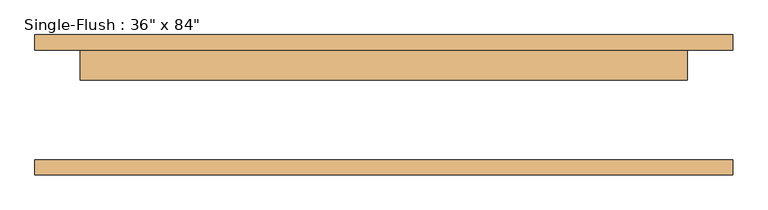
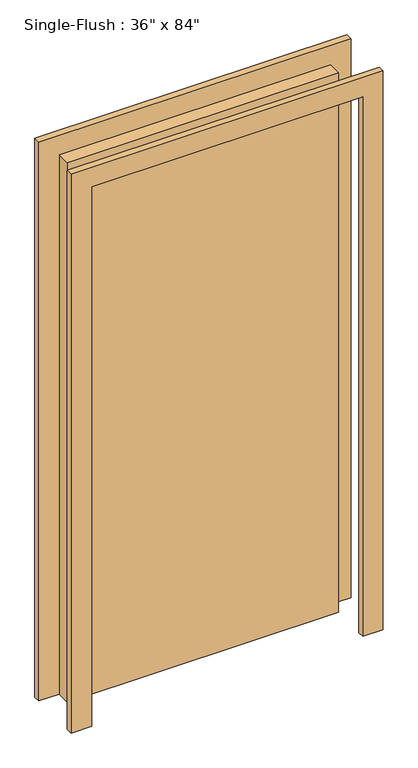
"""IFC4 building model written with IfcOpenShell, lengths in millimetres: door geometry."""

from ifc_helpers import new_model, si_unit, frame, origin, origin_with_axes, place, context, project, spatial, polyline, outline, extrude, source, transform, mapped, element, save


def door_bd3f6991(model_context):
    return source(origin(), model_context, "Body", "SweptSolid", [
        extrude(outline(polyline([(2209.8, -584.2), (0.0, -584.2), (0.0, -508.0), (2133.6, -508.0), (2133.6, 508.0), (0.0, 508.0), (0.0, 584.2), (2209.8, 584.2), (2209.8, -584.2)])), frame((0.0, 92.075, 0.0), z_axis=(0.0, 1.0, 0.0), x_axis=(0.0, 0.0, 1.0)), (0.0, 0.0, 1.0), 25.4),
        extrude(outline(polyline([(2209.8, 584.2), (2209.8, -584.2), (0.0, -584.2), (0.0, -508.0), (2133.6, -508.0), (2133.6, 508.0), (0.0, 508.0), (0.0, 584.2), (2209.8, 584.2)])), frame((0.0, -117.475, 0.0), z_axis=(0.0, 1.0, 0.0), x_axis=(0.0, 0.0, 1.0)), (0.0, 0.0, 1.0), 25.4),
        extrude(outline(polyline([(508.0, 41.275), (-508.0, 41.275), (-508.0, 92.075), (508.0, 92.075), (508.0, 41.275)])), origin_with_axes(), (0.0, 0.0, 1.0), 2133.6),
    ])


if __name__ == "__main__":
    model = new_model("IFC4")
    model_context = context("Model", 3, world=origin())
    ifc_project = project(units=[si_unit("LENGTHUNIT", "METRE", prefix="MILLI")], contexts=[model_context])
    site = spatial("IfcSite", under=ifc_project)
    building = spatial("IfcBuilding", under=site)
    placement = place(None, origin())
    door_shape = door_bd3f6991(model_context)
    element("IfcDoor", 1, ObjectType="Single-Flush : 36\" x 84\"", at=placement, inside=building, context=model_context, shape_type="MappedRepresentation", body=[
        mapped(door_shape, transform((0.0, 0.0, 0.0), x_axis=(1.0, 0.0, 0.0), y_axis=(0.0, 1.0, 0.0), z_axis=(0.0, 0.0, 1.0))),
    ])
    save(model, "model.ifc")
